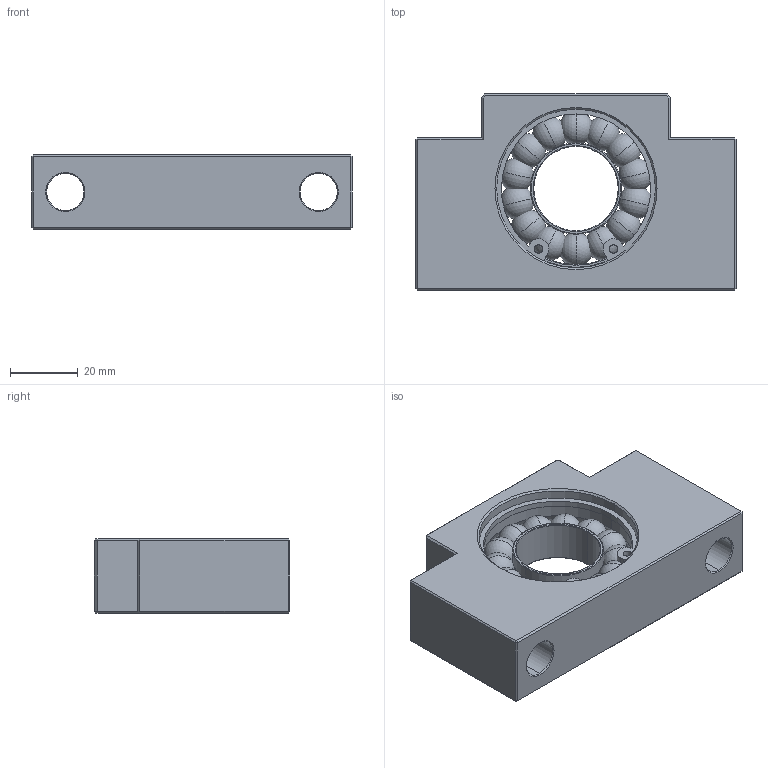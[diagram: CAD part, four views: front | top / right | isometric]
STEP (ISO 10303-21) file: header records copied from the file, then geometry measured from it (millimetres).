
FILE_DESCRIPTION (( 'STEP AP203' ), '1' );
FILE_NAME ('LFA25.STEP', '2009-07-09T02:31:57', ( '無限使用' ), ( 'FDZone.ORG' ), 'SwSTEP 2.0', 'SolidWorks 2008', '' );
FILE_SCHEMA (( 'CONFIG_CONTROL_DESIGN' ));
Length unit declared in the file: millimetre
Products named in the file (1): LFA25
Bounding box: 95 x 58 x 22 mm (x, y, z)
Volume: 69823.2 mm3; surface area: 33355.8 mm2
Topology: 19 solids, 19 shells, 180 faces, 440 edges, 276 vertices
Faces by surface type: plane 62, cylinder 56, sphere 28, torus 22, cone 12
Entity records: 4859 total; most frequent: DIRECTION 924, CARTESIAN_POINT 785, ORIENTED_EDGE 740, AXIS2_PLACEMENT_3D 373, EDGE_CURVE 370, VERTEX_POINT 234, EDGE_LOOP 204, CIRCLE 192
